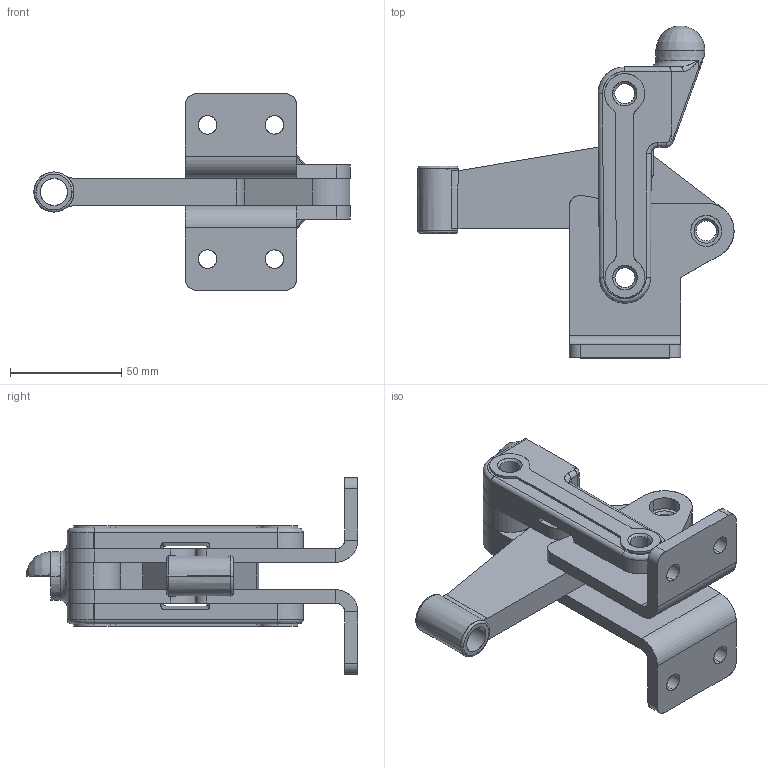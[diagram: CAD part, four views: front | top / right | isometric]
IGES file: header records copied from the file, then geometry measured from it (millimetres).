
Start section: SolidWorks IGES file using analytic representation for surfaces
Global section: file name: D:\GH Files\GH-SW-FILES\GH7\71210,71215,71220,71225\71225\71225.IGS; native system: SolidWorks 2006 by SolidWorks Corporation; preprocessor: SolidWorks 2006 by SolidWorks Corporation; author: Administrator; date: 060705.162642; units: millimetre
Bounding box: 142 x 149.03 x 88.3 mm (x, y, z)
Surface area: 70378.6 mm2 (no closed solid volume)
Topology: 0 solids, 0 shells, 300 faces, 4230 edges, 4225 vertices
Faces by surface type: revolution 185, bspline 115
